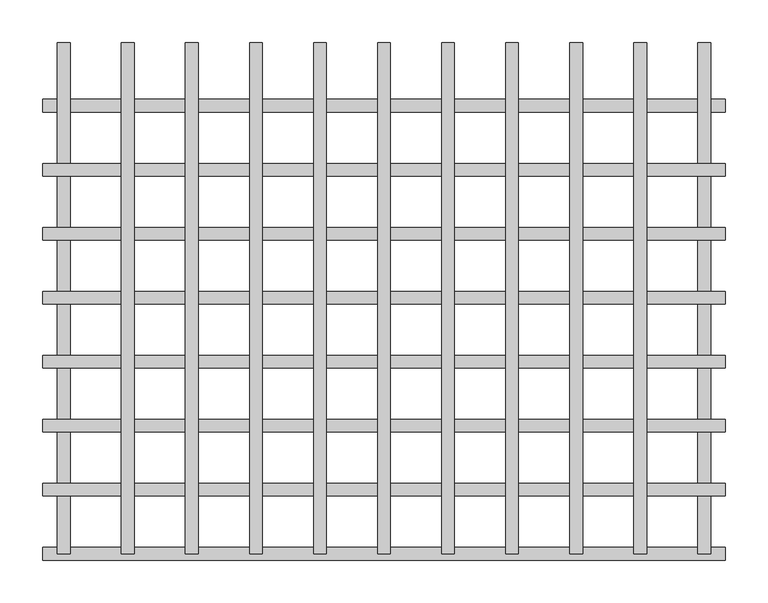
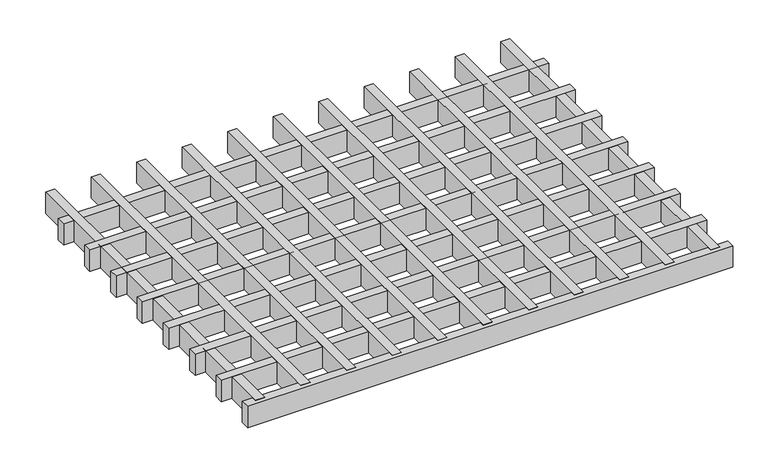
"""IFC4 building model written with IfcOpenShell, lengths in millimetres: proxy geometry, durlum_GEO_panel : durlum_GEO_15_length_cut."""

from ifc_helpers import new_model, si_unit, origin, origin_with_axes, place, context, project, spatial, polyline, outline, extrude, source, transform, mapped, element, save


def generic_models_29d42799(model_context):
    return source(origin(), model_context, "Body", "SweptSolid", [
        extrude(outline(polyline([(292.5, 299.5), (307.5, 299.5), (307.5, -299.5), (292.5, -299.5), (292.5, 299.5)])), origin_with_axes(), (0.0, 0.0, 1.0), 37.0),
        extrude(outline(polyline([(217.5, 299.5), (232.5, 299.5), (232.5, -299.5), (217.5, -299.5), (217.5, 299.5)])), origin_with_axes(), (0.0, 0.0, 1.0), 37.0),
        extrude(outline(polyline([(142.5, 299.5), (157.5, 299.5), (157.5, -299.5), (142.5, -299.5), (142.5, 299.5)])), origin_with_axes(), (0.0, 0.0, 1.0), 37.0),
        extrude(outline(polyline([(67.5, 299.5), (82.5, 299.5), (82.5, -299.5), (67.5, -299.5), (67.5, 299.5)])), origin_with_axes(), (0.0, 0.0, 1.0), 37.0),
        extrude(outline(polyline([(-7.5, 299.5), (7.5, 299.5), (7.5, -299.5), (-7.5, -299.5), (-7.5, 299.5)])), origin_with_axes(), (0.0, 0.0, 1.0), 37.0),
        extrude(outline(polyline([(-82.5, 299.5), (-67.5, 299.5), (-67.5, -299.5), (-82.5, -299.5), (-82.5, 299.5)])), origin_with_axes(), (0.0, 0.0, 1.0), 37.0),
        extrude(outline(polyline([(-157.5, 299.5), (-142.5, 299.5), (-142.5, -299.5), (-157.5, -299.5), (-157.5, 299.5)])), origin_with_axes(), (0.0, 0.0, 1.0), 37.0),
        extrude(outline(polyline([(-232.5, 299.5), (-217.5, 299.5), (-217.5, -299.5), (-232.5, -299.5), (-232.5, 299.5)])), origin_with_axes(), (0.0, 0.0, 1.0), 37.0),
        extrude(outline(polyline([(-307.5, 299.5), (-292.5, 299.5), (-292.5, -299.5), (-307.5, -299.5), (-307.5, 299.5)])), origin_with_axes(), (0.0, 0.0, 1.0), 37.0),
        extrude(outline(polyline([(399.75, -217.0), (399.75, -232.0), (-399.75, -232.0), (-399.75, -217.0), (399.75, -217.0)])), origin_with_axes(), (0.0, 0.0, 1.0), 37.0),
        extrude(outline(polyline([(399.75, -142.0), (399.75, -157.0), (-399.75, -157.0), (-399.75, -142.0), (399.75, -142.0)])), origin_with_axes(), (0.0, 0.0, 1.0), 37.0),
        extrude(outline(polyline([(399.75, -67.0), (399.75, -82.0), (-399.75, -82.0), (-399.75, -67.0), (399.75, -67.0)])), origin_with_axes(), (0.0, 0.0, 1.0), 37.0),
        extrude(outline(polyline([(399.75, 8.0), (399.75, -7.0), (-399.75, -7.0), (-399.75, 8.0), (399.75, 8.0)])), origin_with_axes(), (0.0, 0.0, 1.0), 37.0),
        extrude(outline(polyline([(399.75, 83.0), (399.75, 68.0), (-399.75, 68.0), (-399.75, 83.0), (399.75, 83.0)])), origin_with_axes(), (0.0, 0.0, 1.0), 37.0),
        extrude(outline(polyline([(399.75, 158.0), (399.75, 143.0), (-399.75, 143.0), (-399.75, 158.0), (399.75, 158.0)])), origin_with_axes(), (0.0, 0.0, 1.0), 37.0),
        extrude(outline(polyline([(367.5, 299.5), (382.5, 299.5), (382.5, -299.5), (367.5, -299.5), (367.5, 299.5)])), origin_with_axes(), (0.0, 0.0, 1.0), 37.0),
        extrude(outline(polyline([(-382.5, 299.5), (-367.5, 299.5), (-367.5, -299.5), (-382.5, -299.5), (-382.5, 299.5)])), origin_with_axes(), (0.0, 0.0, 1.0), 37.0),
        extrude(outline(polyline([(399.75, -292.0), (399.75, -307.0), (-399.75, -307.0), (-399.75, -292.0), (399.75, -292.0)])), origin_with_axes(), (0.0, 0.0, 1.0), 37.0),
        extrude(outline(polyline([(399.75, 233.0), (399.75, 218.0), (-399.75, 218.0), (-399.75, 233.0), (399.75, 233.0)])), origin_with_axes(), (0.0, 0.0, 1.0), 37.0),
    ])


if __name__ == "__main__":
    model = new_model("IFC4")
    model_context = context("Model", 3, world=origin())
    ifc_project = project(units=[si_unit("LENGTHUNIT", "METRE", prefix="MILLI")], contexts=[model_context])
    site = spatial("IfcSite", under=ifc_project)
    building = spatial("IfcBuilding", under=site)
    placement = place(None, origin())
    generic_models_shape = generic_models_29d42799(model_context)
    element("IfcBuildingElementProxy", 1, Name="durlum_GEO_panel : durlum_GEO_15_length_cut", ObjectType="durlum_GEO_panel : durlum_GEO_15_length_cut", at=placement, inside=building, context=model_context, shape_type="MappedRepresentation", body=[
        mapped(generic_models_shape, transform((0.0, 0.0, 0.0), x_axis=(1.0, 0.0, 0.0), y_axis=(0.0, 1.0, 0.0), z_axis=(0.0, 0.0, 1.0))),
    ])
    save(model, "model.ifc")
